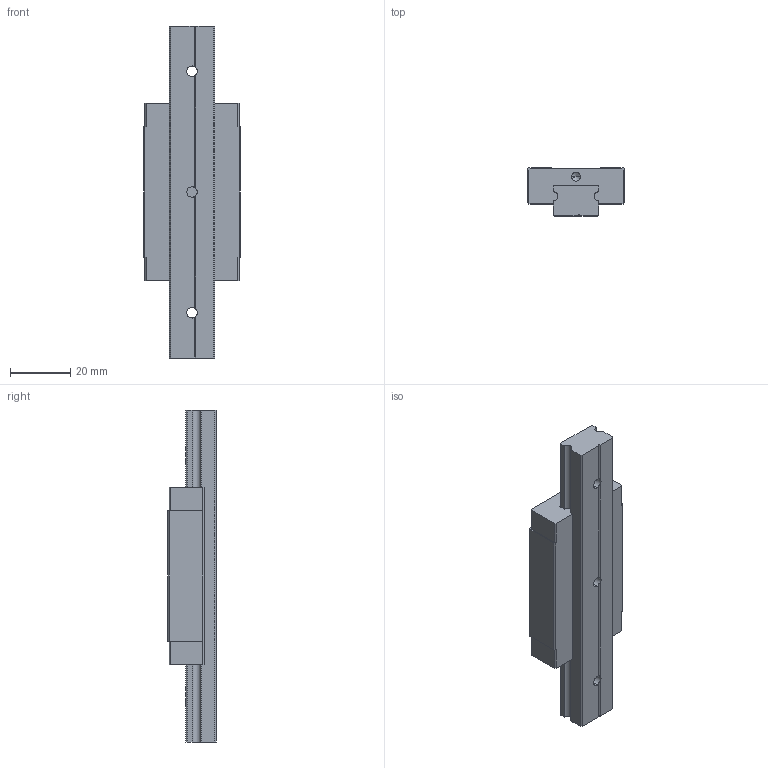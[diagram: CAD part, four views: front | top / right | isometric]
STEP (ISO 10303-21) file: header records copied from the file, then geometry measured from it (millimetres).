
FILE_DESCRIPTION((''),'2;1');
FILE_NAME('MGN15H_ASM','2008-07-11T',('minyao'),(''),'PRO/ENGINEER BY PARAMETRIC TECHNOLOGY CORPORATION, 2004360','PRO/ENGINEER BY PARAMETRIC TECHNOLOGY CORPORATION, 2004360','');
FILE_SCHEMA(('CONFIG_CONTROL_DESIGN'));
Length unit declared in the file: millimetre
Products named in the file (4): MANIFOLD_SOLID_BREP_39; MANIFOLD_SOLID_BREP_40; SAND94F7H98T_ASM; MGN15H_ASM
Assembly tree (3 placements, depth 3):
  MGN15H_ASM
    SAND94F7H98T_ASM
      MANIFOLD_SOLID_BREP_39
      MANIFOLD_SOLID_BREP_40
Bounding box: 32 x 16 x 110 mm (x, y, z)
Volume: 32098.9 mm3; surface area: 13343.4 mm2
Topology: 2 solids, 2 shells, 98 faces, 288 edges, 188 vertices
Faces by surface type: plane 53, cylinder 33, cone 12
Entity records: 3380 total; most frequent: CARTESIAN_POINT 631, DIRECTION 562, ORIENTED_EDGE 552, EDGE_CURVE 276, VECTOR 192, LINE 192, VERTEX_POINT 188, AXIS2_PLACEMENT_3D 185
